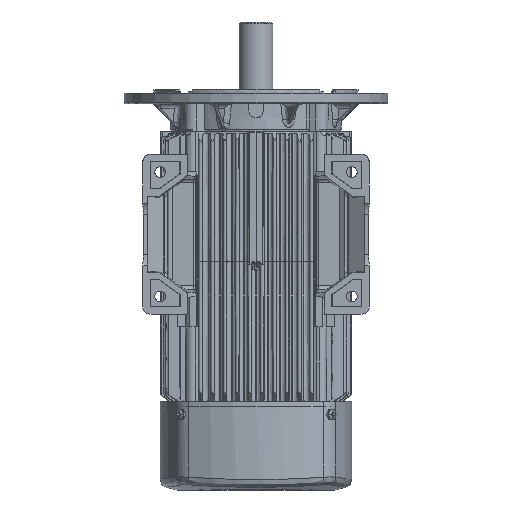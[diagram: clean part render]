
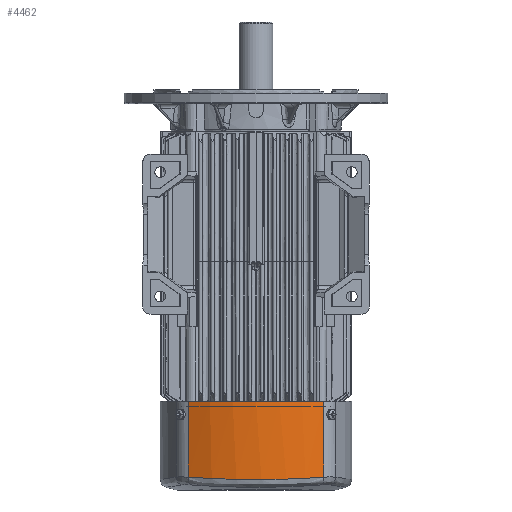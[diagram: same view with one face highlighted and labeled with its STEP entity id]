
A CAD part, front view. The second image highlights one B-rep face of the part: STEP entity #4462.
In plain terms, the highlighted cylindrical face has radius 169 mm (diameter 338 mm), a partial arc.
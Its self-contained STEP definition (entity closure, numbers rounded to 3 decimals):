
#2459 = LINE ( 'NONE', #11548, #8817 ) ;
#4462 = ADVANCED_FACE ( 'NONE', ( #115779 ), #118977, .T. ) ;
#7454 = EDGE_CURVE ( 'NONE', #76326, #123475, #130138, .T. ) ;
#8817 = VECTOR ( 'NONE', #45500, 1000. ) ;
#11548 = CARTESIAN_POINT ( 'NONE',  ( -76.162, -89.865, -100. ) ) ;
#12961 = CARTESIAN_POINT ( 'NONE',  ( 26.093, -106.006, -87.925 ) ) ;
#18377 = CARTESIAN_POINT ( 'NONE',  ( 0., 61., -100. ) ) ;
#18813 = DIRECTION ( 'NONE',  ( 1., 0., 0. ) ) ;
#23239 = CARTESIAN_POINT ( 'NONE',  ( 51.832, -99.99, -87.009 ) ) ;
#23679 = CARTESIAN_POINT ( 'NONE',  ( -23.056, -106.428, -87.99 ) ) ;
#24132 = CARTESIAN_POINT ( 'NONE',  ( -32.84, -104.812, -87.741 ) ) ;
#24581 = CARTESIAN_POINT ( 'NONE',  ( -64.204, -95.467, -86.341 ) ) ;
#30947 = CARTESIAN_POINT ( 'NONE',  ( 76.162, -89.865, 0. ) ) ;
#32673 = CARTESIAN_POINT ( 'NONE',  ( 0., 61., 0. ) ) ;
#33278 = ORIENTED_EDGE ( 'NONE', *, *, #73432, .F. ) ;
#34376 = CARTESIAN_POINT ( 'NONE',  ( 32.607, -104.858, -87.748 ) ) ;
#44251 = CARTESIAN_POINT ( 'NONE',  ( -13.178, -107.616, -88.175 ) ) ;
#44691 = CARTESIAN_POINT ( 'NONE',  ( 35.866, -104.183, -87.645 ) ) ;
#45127 = CARTESIAN_POINT ( 'NONE',  ( 6.501, -108.002, -88.235 ) ) ;
#45139 = VECTOR ( 'NONE', #52816, 1000. ) ;
#45500 = DIRECTION ( 'NONE',  ( 0., 0., 1. ) ) ;
#48924 = CARTESIAN_POINT ( 'NONE',  ( 76.162, -89.865, -85.537 ) ) ;
#49182 = AXIS2_PLACEMENT_3D ( 'NONE', #18377, #50585, #18813 ) ;
#49518 = VERTEX_POINT ( 'NONE', #109759 ) ;
#50585 = DIRECTION ( 'NONE',  ( 0., 0., 1. ) ) ;
#52816 = DIRECTION ( 'NONE',  ( 0., 0., 1. ) ) ;
#53262 = CARTESIAN_POINT ( 'NONE',  ( 76.162, -89.865, -100. ) ) ;
#64871 = CARTESIAN_POINT ( 'NONE',  ( -45.632, -101.855, -87.29 ) ) ;
#65725 = CARTESIAN_POINT ( 'NONE',  ( 22.833, -106.483, -87.999 ) ) ;
#66737 = EDGE_LOOP ( 'NONE', ( #33278, #66781, #67503, #99173 ) ) ;
#66781 = ORIENTED_EDGE ( 'NONE', *, *, #124944, .T. ) ;
#67503 = ORIENTED_EDGE ( 'NONE', *, *, #7454, .T. ) ;
#71792 = EDGE_CURVE ( 'NONE', #123475, #127704, #90694, .T. ) ;
#72513 = DIRECTION ( 'NONE',  ( 0., 0., -1. ) ) ;
#73432 = EDGE_CURVE ( 'NONE', #49518, #127704, #2459, .T. ) ;
#74256 = CARTESIAN_POINT ( 'NONE',  ( -26.334, -105.944, -87.915 ) ) ;
#76326 = VERTEX_POINT ( 'NONE', #87322 ) ;
#84514 = CARTESIAN_POINT ( 'NONE',  ( 45.524, -101.888, -87.295 ) ) ;
#85824 = CARTESIAN_POINT ( 'NONE',  ( -76.162, -89.865, -85.537 ) ) ;
#87322 = CARTESIAN_POINT ( 'NONE',  ( 76.162, -89.865, -85.537 ) ) ;
#90694 = CIRCLE ( 'NONE', #127066, 169. ) ;
#94828 = CARTESIAN_POINT ( 'NONE',  ( 64.191, -95.473, -86.342 ) ) ;
#95276 = CARTESIAN_POINT ( 'NONE',  ( -36.059, -104.141, -87.638 ) ) ;
#95720 = CARTESIAN_POINT ( 'NONE',  ( -70.242, -92.854, -85.961 ) ) ;
#96169 = CARTESIAN_POINT ( 'NONE',  ( -27.966, -105.678, -87.874 ) ) ;
#97982 = B_SPLINE_CURVE_WITH_KNOTS ( 'NONE', 3,
 ( #85824, #95720, #24581, #126278, #64871, #95276, #24132, #96169, #74256, #23679, #105635, #44251, #106524, #45127, #127161, #65725, #12961, #34376, #44691, #84514, #23239, #94828, #98231, #48924 ),
 .UNSPECIFIED., .F., .F.,
 ( 4, 2, 2, 2, 2, 2, 2, 2, 2, 2, 2, 4 ),
 ( 0., 0.02, 0.039, 0.049, 0.054, 0.059, 0.079, 0.098, 0.108, 0.118, 0.138, 0.157 ),
 .UNSPECIFIED. ) ;
#98231 = CARTESIAN_POINT ( 'NONE',  ( 70.242, -92.854, -85.961 ) ) ;
#99173 = ORIENTED_EDGE ( 'NONE', *, *, #71792, .T. ) ;
#104333 = DIRECTION ( 'NONE',  ( -1., 0., 0. ) ) ;
#105635 = CARTESIAN_POINT ( 'NONE',  ( -21.407, -106.647, -88.024 ) ) ;
#106524 = CARTESIAN_POINT ( 'NONE',  ( -6.609, -107.998, -88.235 ) ) ;
#109759 = CARTESIAN_POINT ( 'NONE',  ( -76.162, -89.865, -85.537 ) ) ;
#112042 = CARTESIAN_POINT ( 'NONE',  ( -76.162, -89.865, 0. ) ) ;
#115779 = FACE_OUTER_BOUND ( 'NONE', #66737, .T. ) ;
#118977 = CYLINDRICAL_SURFACE ( 'NONE', #49182, 169. ) ;
#123475 = VERTEX_POINT ( 'NONE', #30947 ) ;
#124944 = EDGE_CURVE ( 'NONE', #49518, #76326, #97982, .T. ) ;
#126278 = CARTESIAN_POINT ( 'NONE',  ( -51.899, -99.967, -87.006 ) ) ;
#127066 = AXIS2_PLACEMENT_3D ( 'NONE', #32673, #72513, #104333 ) ;
#127161 = CARTESIAN_POINT ( 'NONE',  ( 13.042, -107.624, -88.176 ) ) ;
#127704 = VERTEX_POINT ( 'NONE', #112042 ) ;
#130138 = LINE ( 'NONE', #53262, #45139 ) ;
